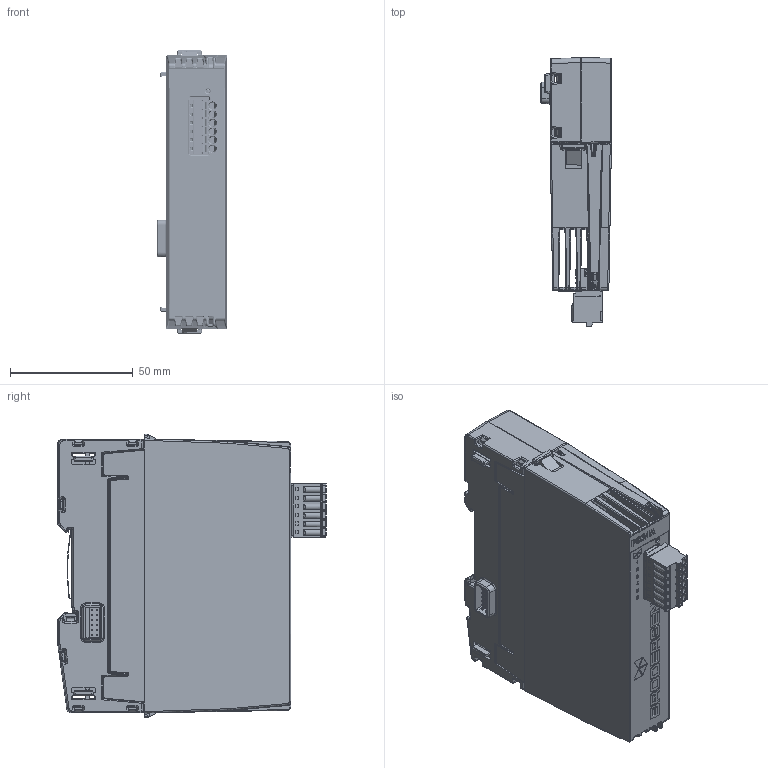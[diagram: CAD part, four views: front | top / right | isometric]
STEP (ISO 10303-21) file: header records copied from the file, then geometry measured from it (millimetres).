
FILE_DESCRIPTION(/* description */ (''),/* implementation_level */ '2;1');
FILE_NAME(/* name */ 'C:\Users\Public\Documents\Autodesk\Inventor 2023\PS24A_Simplified+BackBB21B.stp',/* time_stamp */ '2024-10-19T00:05:20+02:00',/* author */ ('shoma'),/* organization */ (''),/* preprocessor_version */ 'ST-DEVELOPER v19',/* originating_system */ 'Autodesk Inventor 2023',/* authorisation */ '');
FILE_SCHEMA (('AUTOMOTIVE_DESIGN { 1 0 10303 214 3 1 1 }'));
Products named in the file (1): PS24A_Simplified+BackBB21B
Bounding box: 28.9 x 109.39 x 115.5 mm (x, y, z)
Volume: 112760.5 mm3; surface area: 80712.7 mm2
Topology: 8 solids, 24 shells, 7037 faces, 19104 edges, 12055 vertices
Faces by surface type: plane 4398, cylinder 1771, bspline 615, sphere 160, cone 66, torus 27
Full cylindrical faces by diameter (mm): 0.296 x1, 0.3 x186, 0.457 x1, 0.7 x36, 0.8 x8, 0.85 x24, 0.9 x8, 1.17 x6, 1.2 x6, 1.25 x6, 1.3 x10, 1.4 x4, 1.6 x7, 2.35 x2, 2.5 x1, 3 x1, 3.1 x6, 3.25 x2
Entity records: 247101 total; most frequent: CARTESIAN_POINT 63088, ORIENTED_EDGE 37872, DIRECTION 34994, EDGE_CURVE 18936, LINE 13910, VECTOR 13910, VERTEX_POINT 12050, AXIS2_PLACEMENT_3D 10542
